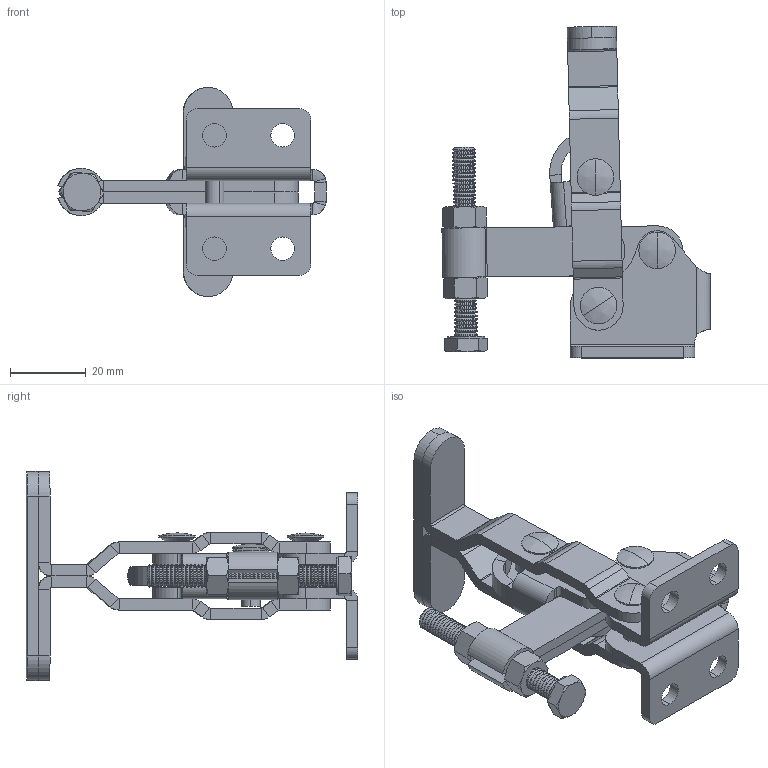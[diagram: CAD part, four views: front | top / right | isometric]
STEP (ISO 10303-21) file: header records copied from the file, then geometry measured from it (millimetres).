
FILE_DESCRIPTION (( 'STEP AP214' ), '1' );
FILE_NAME ('ISK-40P0.STEP', '2015-06-29T10:04:19', ( '' ), ( '' ), 'SwSTEP 2.0', 'SolidWorks 2015', '' );
FILE_SCHEMA (( 'AUTOMOTIVE_DESIGN' ));
Length unit declared in the file: millimetre
Products named in the file (10): Grip; hexagon nut style 2_ab_jis_JIS B 1181 Hexagon nut - style 2 A M6 - D --N; continuous thread hexagon head bolt_a_jis_JIS B 1180 Continuous thread hexagon head bolt A M6 x 50 --S; 120 degree oval countersunk rivets gb_GB_RIVETS_COUNTERSUNK_TYPE88 5X13; ISK-40P0; 120 degree oval countersunk rivets gb_GB_RIVETS_COUNTERSUNK_TYPE88 5X18; Link; Handle; Arm; Base
Assembly tree (14 placements, depth 2):
  ISK-40P0
    Base
    Arm  x2
    Handle  x2
    Link
    120 degree oval countersunk rivets gb_GB_RIVETS_COUNTERSUNK_TYPE88 5X18  x2
    120 degree oval countersunk rivets gb_GB_RIVETS_COUNTERSUNK_TYPE88 5X13  x2
    continuous thread hexagon head bolt_a_jis_JIS B 1180 Continuous thread hexagon head bolt A M6 x 50 --S
    hexagon nut style 2_ab_jis_JIS B 1181 Hexagon nut - style 2 A M6 - D --N  x2
    Grip
Bounding box: 70.91 x 87.74 x 55.3 mm (x, y, z)
Volume: 29151.5 mm3; surface area: 25953.7 mm2
Topology: 14 solids, 14 shells, 734 faces, 1759 edges, 1054 vertices
Faces by surface type: cylinder 251, cone 244, plane 215, torus 10, sphere 8, bspline 6
Entity records: 18610 total; most frequent: CARTESIAN_POINT 3486, DIRECTION 3400, ORIENTED_EDGE 2952, EDGE_CURVE 1476, AXIS2_PLACEMENT_3D 1372, VERTEX_POINT 896, CIRCLE 762, LINE 656
